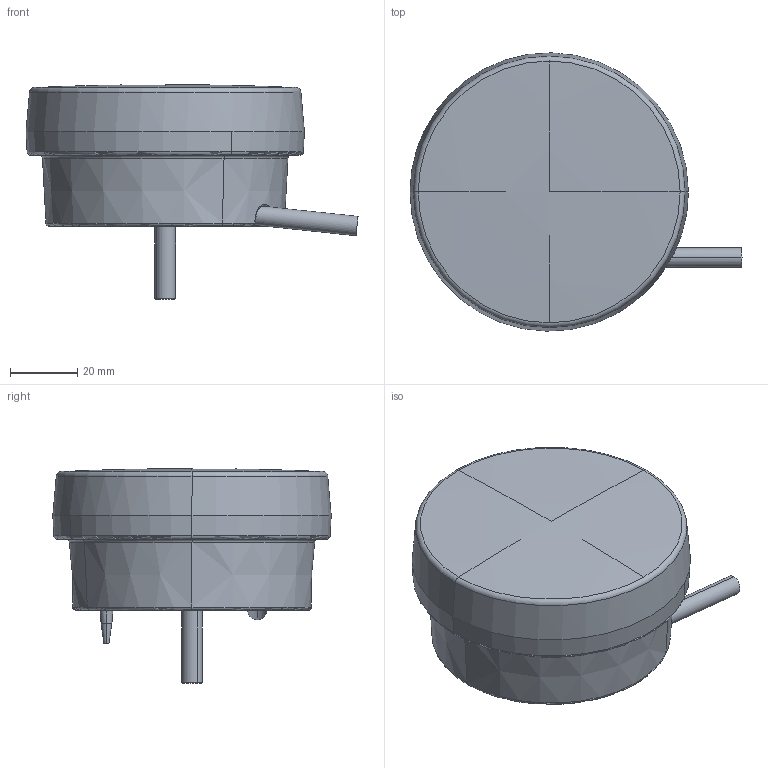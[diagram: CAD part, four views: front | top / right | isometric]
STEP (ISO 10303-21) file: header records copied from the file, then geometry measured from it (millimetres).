
FILE_DESCRIPTION(('CATIA V5 STEP Exchange','CAx-IF Rec.Pracs.--- Model Styling and Organization---1.5--- 2016-08-15','CAx-IF Rec.Pracs.---Supplemental Geometry---1.0---2011-11-01','CAx-IF Rec.Pracs.--- Composite Materials ---1.1---2010-07-15'),'2;1');
FILE_NAME('E:\tmp\ddx\2011204\3D_data_LED_DRL_PO_and_DI_lamp_83mm_2BE 980 691-00.stp','2022-01-18T07:32:49+00:00',('none'),('none'),'CATIA Version 5-6 Release 2020 SP3 HF9','CATIA V5 STEP AP214 Edition 3 v2','none');
FILE_SCHEMA(('AUTOMOTIVE_DESIGN { 1 0 10303 214 3 1 1 1 }'));
Length unit declared in the file: millimetre
Products named in the file (1): 10000513929_D10_001
Bounding box: 98.97 x 82.99 x 64 mm (x, y, z)
Volume: 196370.2 mm3; surface area: 21849.1 mm2
Topology: 2 solids, 2 shells, 147 faces, 390 edges, 245 vertices
Faces by surface type: plane 31, cone 29, revolution 28, torus 23, cylinder 21, bspline 11, sphere 4
Entity records: 6191 total; most frequent: CARTESIAN_POINT 2794, ORIENTED_EDGE 768, DIRECTION 455, EDGE_CURVE 384, VERTEX_POINT 245, AXIS2_PLACEMENT_3D 218, B_SPLINE_CURVE_WITH_KNOTS 185, EDGE_LOOP 155
